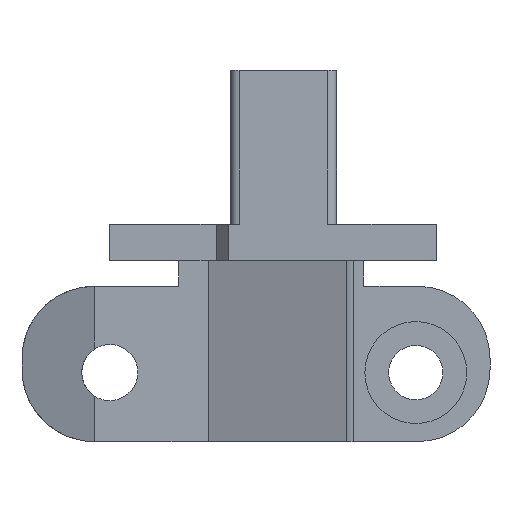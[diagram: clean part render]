
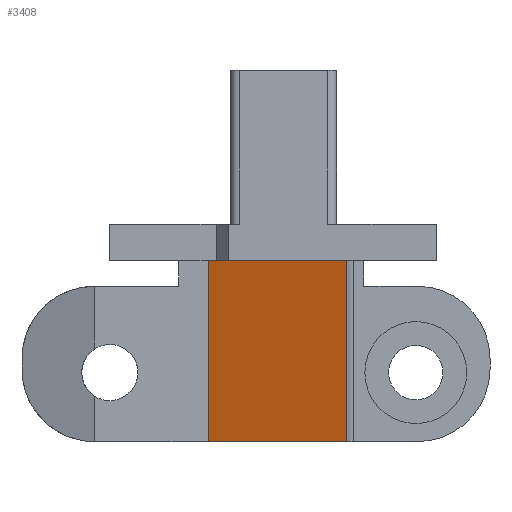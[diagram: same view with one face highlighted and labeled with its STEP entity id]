
A CAD part, left-side view. The second image highlights one B-rep face of the part: STEP entity #3408.
In plain terms, the highlighted planar face has unit normal (-0.934, 0.358, 0).
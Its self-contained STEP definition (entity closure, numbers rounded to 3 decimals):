
#1356 = CARTESIAN_POINT ( 'NONE',  ( 191.2, 116.022, 8.1 ) ) ;
#1513 = VECTOR ( 'NONE', #1573, 1000. ) ;
#1514 = CARTESIAN_POINT ( 'NONE',  ( 191.2, 116.022, 8.1 ) ) ;
#1520 = LINE ( 'NONE', #1514, #1513 ) ;
#1565 = CARTESIAN_POINT ( 'NONE',  ( 185.333, 100.732, 8.1 ) ) ;
#1568 = CARTESIAN_POINT ( 'NONE',  ( 185.333, 100.732, 28.1 ) ) ;
#1573 = DIRECTION ( 'NONE',  ( -0.358, -0.934, 0. ) ) ;
#1616 = DIRECTION ( 'NONE',  ( 0., 0., 1. ) ) ;
#1617 = VECTOR ( 'NONE', #1616, 1000. ) ;
#1618 = CARTESIAN_POINT ( 'NONE',  ( 185.333, 100.732, 27.6 ) ) ;
#1629 = LINE ( 'NONE', #1618, #1617 ) ;
#1791 = CARTESIAN_POINT ( 'NONE',  ( 191.2, 116.022, 28.1 ) ) ;
#1799 = DIRECTION ( 'NONE',  ( -0.358, -0.934, 0. ) ) ;
#1800 = VECTOR ( 'NONE', #1799, 1000. ) ;
#1801 = DIRECTION ( 'NONE',  ( -0.358, -0.934, 0. ) ) ;
#1802 = DIRECTION ( 'NONE',  ( -0.934, 0.358, 0. ) ) ;
#1803 = CARTESIAN_POINT ( 'NONE',  ( 191.2, 116.022, 28.1 ) ) ;
#1804 = LINE ( 'NONE', #1803, #1800 ) ;
#1808 = CARTESIAN_POINT ( 'NONE',  ( 191.2, 116.022, 27.6 ) ) ;
#1812 = PLANE ( 'NONE',  #1816 ) ;
#1816 = AXIS2_PLACEMENT_3D ( 'NONE', #1808, #1802, #1801 ) ;
#1817 = FACE_OUTER_BOUND ( 'NONE', #3420, .T. ) ;
#1850 = DIRECTION ( 'NONE',  ( 0., 0., -1. ) ) ;
#1851 = VECTOR ( 'NONE', #1850, 1000. ) ;
#1852 = CARTESIAN_POINT ( 'NONE',  ( 191.2, 116.022, 27.6 ) ) ;
#1853 = LINE ( 'NONE', #1852, #1851 ) ;
#3102 = VERTEX_POINT ( 'NONE', #1356 ) ;
#3207 = EDGE_CURVE ( 'NONE', #3102, #3229, #1520, .T. ) ;
#3222 = VERTEX_POINT ( 'NONE', #1568 ) ;
#3229 = VERTEX_POINT ( 'NONE', #1565 ) ;
#3264 = EDGE_CURVE ( 'NONE', #3229, #3222, #1629, .T. ) ;
#3350 = ORIENTED_EDGE ( 'NONE', *, *, #3414, .T. ) ;
#3354 = ORIENTED_EDGE ( 'NONE', *, *, #3207, .T. ) ;
#3361 = VERTEX_POINT ( 'NONE', #1791 ) ;
#3382 = ORIENTED_EDGE ( 'NONE', *, *, #3410, .F. ) ;
#3401 = ORIENTED_EDGE ( 'NONE', *, *, #3264, .T. ) ;
#3408 = ADVANCED_FACE ( 'NONE', ( #1817 ), #1812, .T. ) ;
#3410 = EDGE_CURVE ( 'NONE', #3361, #3222, #1804, .T. ) ;
#3414 = EDGE_CURVE ( 'NONE', #3361, #3102, #1853, .T. ) ;
#3420 = EDGE_LOOP ( 'NONE', ( #3401, #3382, #3350, #3354 ) ) ;
